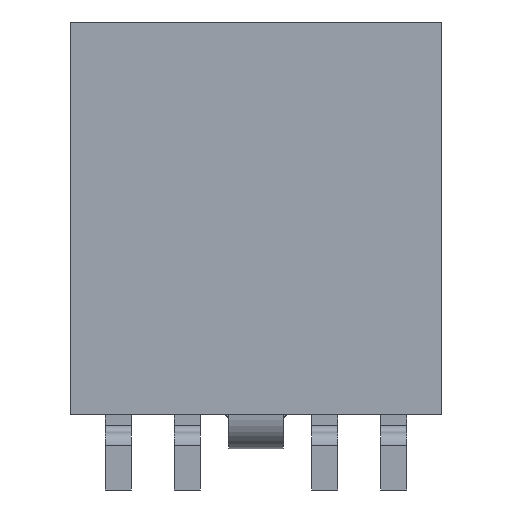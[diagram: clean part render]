
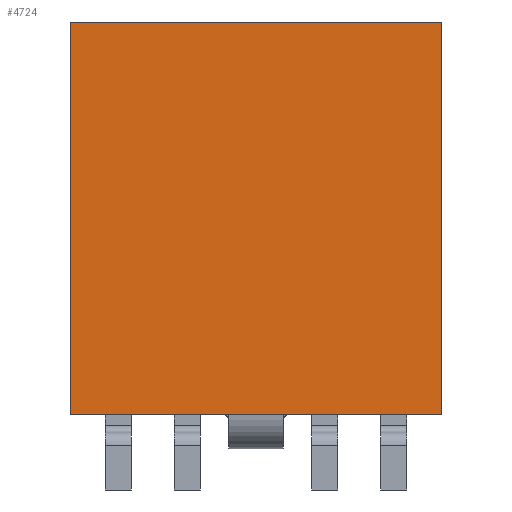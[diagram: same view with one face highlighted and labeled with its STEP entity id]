
A CAD part, front view. The second image highlights one B-rep face of the part: STEP entity #4724.
In plain terms, the highlighted planar face has unit normal (0, -1, 0).
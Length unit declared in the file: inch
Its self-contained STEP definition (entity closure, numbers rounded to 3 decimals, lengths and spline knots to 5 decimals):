
#70 = CARTESIAN_POINT ( 'NONE',  ( 0.135, -0.0375, 0. ) ) ;
#116 = EDGE_CURVE ( 'NONE', #2800, #5220, #5939, .T. ) ;
#140 = CARTESIAN_POINT ( 'NONE',  ( 0.135, -0.0375, 0. ) ) ;
#252 = EDGE_LOOP ( 'NONE', ( #3257, #6083, #2189, #527 ) ) ;
#422 = DIRECTION ( 'NONE',  ( 0., 0., 1. ) ) ;
#470 = CARTESIAN_POINT ( 'NONE',  ( 0.135, -0.0375, 0. ) ) ;
#527 = ORIENTED_EDGE ( 'NONE', *, *, #116, .F. ) ;
#694 = CARTESIAN_POINT ( 'NONE',  ( -0.135, -0.0375, 0. ) ) ;
#1410 = EDGE_CURVE ( 'NONE', #2383, #4491, #2363, .T. ) ;
#2189 = ORIENTED_EDGE ( 'NONE', *, *, #4151, .F. ) ;
#2363 = LINE ( 'NONE', #4560, #5009 ) ;
#2383 = VERTEX_POINT ( 'NONE', #694 ) ;
#2800 = VERTEX_POINT ( 'NONE', #140 ) ;
#2815 = PLANE ( 'NONE',  #5218 ) ;
#2836 = DIRECTION ( 'NONE',  ( 0., 0., -1. ) ) ;
#3256 = VECTOR ( 'NONE', #4193, 39.37008 ) ;
#3257 = ORIENTED_EDGE ( 'NONE', *, *, #4873, .T. ) ;
#3291 = DIRECTION ( 'NONE',  ( 0., 1., 0. ) ) ;
#3401 = DIRECTION ( 'NONE',  ( -1., 0., 0. ) ) ;
#3902 = FACE_OUTER_BOUND ( 'NONE', #252, .T. ) ;
#4151 = EDGE_CURVE ( 'NONE', #5220, #4491, #5758, .T. ) ;
#4193 = DIRECTION ( 'NONE',  ( -1., 0., 0. ) ) ;
#4207 = CARTESIAN_POINT ( 'NONE',  ( 0.135, -0.0375, 0. ) ) ;
#4474 = CARTESIAN_POINT ( 'NONE',  ( -0.135, -0.0375, -0.285 ) ) ;
#4491 = VERTEX_POINT ( 'NONE', #4474 ) ;
#4560 = CARTESIAN_POINT ( 'NONE',  ( -0.135, -0.0375, 0. ) ) ;
#4616 = CARTESIAN_POINT ( 'NONE',  ( 0.135, -0.0375, -0.285 ) ) ;
#4669 = VECTOR ( 'NONE', #2836, 39.37008 ) ;
#4724 = ADVANCED_FACE ( 'NONE', ( #3902 ), #2815, .F. ) ;
#4850 = LINE ( 'NONE', #70, #5817 ) ;
#4873 = EDGE_CURVE ( 'NONE', #2800, #2383, #4850, .T. ) ;
#5009 = VECTOR ( 'NONE', #5998, 39.37008 ) ;
#5218 = AXIS2_PLACEMENT_3D ( 'NONE', #4207, #3291, #422 ) ;
#5220 = VERTEX_POINT ( 'NONE', #6038 ) ;
#5758 = LINE ( 'NONE', #4616, #3256 ) ;
#5817 = VECTOR ( 'NONE', #3401, 39.37008 ) ;
#5939 = LINE ( 'NONE', #470, #4669 ) ;
#5998 = DIRECTION ( 'NONE',  ( 0., 0., -1. ) ) ;
#6038 = CARTESIAN_POINT ( 'NONE',  ( 0.135, -0.0375, -0.285 ) ) ;
#6083 = ORIENTED_EDGE ( 'NONE', *, *, #1410, .T. ) ;
